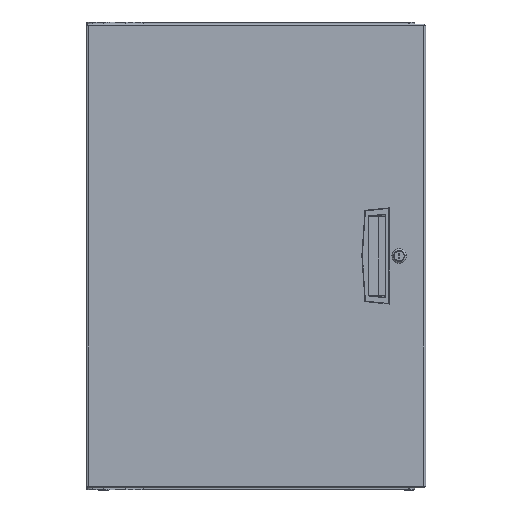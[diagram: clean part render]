
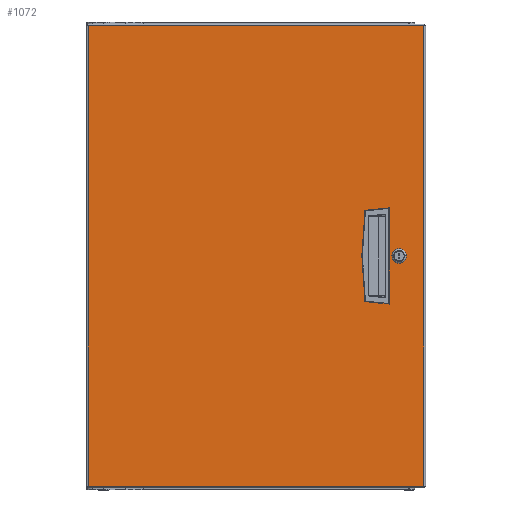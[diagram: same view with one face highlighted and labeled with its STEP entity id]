
A CAD part, top view. The second image highlights one B-rep face of the part: STEP entity #1072.
In plain terms, the highlighted planar face has unit normal (0, 0, 1).
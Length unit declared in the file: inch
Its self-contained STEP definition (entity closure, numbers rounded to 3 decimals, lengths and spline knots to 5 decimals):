
#1=DIRECTION('',(0.,-1.,0.));
#2=VECTOR('',#1,5.2);
#3=CARTESIAN_POINT('',(7.8275,2.6,0.));
#4=LINE('',#3,#2);
#5=DIRECTION('',(1.,0.,0.));
#6=VECTOR('',#5,1.21);
#7=CARTESIAN_POINT('',(6.6175,2.6,0.));
#8=LINE('',#7,#6);
#9=DIRECTION('',(0.,1.,0.));
#10=VECTOR('',#9,5.2);
#11=CARTESIAN_POINT('',(6.6175,-2.6,0.));
#12=LINE('',#11,#10);
#13=DIRECTION('',(-1.,0.,0.));
#14=VECTOR('',#13,1.21);
#15=CARTESIAN_POINT('',(7.8275,-2.6,0.));
#16=LINE('',#15,#14);
#17=CARTESIAN_POINT('',(8.5975,0.,0.));
#18=DIRECTION('',(0.,0.,1.));
#19=DIRECTION('',(0.521,-0.853,0.));
#20=AXIS2_PLACEMENT_3D('',#17,#18,#19);
#22=DIRECTION('',(1.,0.,0.));
#23=VECTOR('',#22,0.39102);
#24=CARTESIAN_POINT('',(8.40199,0.32,0.));
#25=LINE('',#24,#23);
#26=CARTESIAN_POINT('',(8.5975,0.,0.));
#27=DIRECTION('',(0.,0.,1.));
#28=DIRECTION('',(-0.521,0.853,0.));
#29=AXIS2_PLACEMENT_3D('',#26,#27,#28);
#31=DIRECTION('',(-1.,0.,0.));
#32=VECTOR('',#31,0.39102);
#33=CARTESIAN_POINT('',(8.79301,-0.32,0.));
#34=LINE('',#33,#32);
#47=DIRECTION('',(0.,-1.,0.));
#48=VECTOR('',#47,27.626);
#49=CARTESIAN_POINT('',(10.0785,13.813,0.));
#50=LINE('',#49,#48);
#153=DIRECTION('',(1.,0.,0.));
#154=VECTOR('',#153,20.157);
#155=CARTESIAN_POINT('',(-10.0785,13.813,0.));
#156=LINE('',#155,#154);
#177=DIRECTION('',(0.,1.,0.));
#178=VECTOR('',#177,27.626);
#179=CARTESIAN_POINT('',(-10.0785,-13.813,0.));
#180=LINE('',#179,#178);
#229=DIRECTION('',(-1.,0.,0.));
#230=VECTOR('',#229,20.157);
#231=CARTESIAN_POINT('',(10.0785,-13.813,0.));
#232=LINE('',#231,#230);
#837=CARTESIAN_POINT('',(-10.0785,13.813,0.));
#838=CARTESIAN_POINT('',(10.0785,13.813,0.));
#839=VERTEX_POINT('',#837);
#840=VERTEX_POINT('',#838);
#853=CARTESIAN_POINT('',(10.0785,-13.813,0.));
#854=CARTESIAN_POINT('',(-10.0785,-13.813,0.));
#855=VERTEX_POINT('',#853);
#856=VERTEX_POINT('',#854);
#925=CARTESIAN_POINT('',(7.8275,2.6,0.));
#926=CARTESIAN_POINT('',(7.8275,-2.6,0.));
#927=VERTEX_POINT('',#925);
#928=VERTEX_POINT('',#926);
#929=CARTESIAN_POINT('',(6.6175,-2.6,0.));
#930=VERTEX_POINT('',#929);
#931=CARTESIAN_POINT('',(6.6175,2.6,0.));
#932=VERTEX_POINT('',#931);
#933=CARTESIAN_POINT('',(8.79301,-0.32,0.));
#934=CARTESIAN_POINT('',(8.79301,0.32,0.));
#935=VERTEX_POINT('',#933);
#936=VERTEX_POINT('',#934);
#937=CARTESIAN_POINT('',(8.40199,-0.32,0.));
#938=VERTEX_POINT('',#937);
#939=CARTESIAN_POINT('',(8.40199,0.32,0.));
#940=VERTEX_POINT('',#939);
#1037=CARTESIAN_POINT('',(0.,0.,0.));
#1038=DIRECTION('',(0.,0.,1.));
#1039=DIRECTION('',(1.,0.,0.));
#1040=AXIS2_PLACEMENT_3D('',#1037,#1038,#1039);
#1041=PLANE('',#1040);
#1043=ORIENTED_EDGE('',*,*,#1042,.T.);
#1045=ORIENTED_EDGE('',*,*,#1044,.T.);
#1047=ORIENTED_EDGE('',*,*,#1046,.T.);
#1049=ORIENTED_EDGE('',*,*,#1048,.T.);
#1050=EDGE_LOOP('',(#1043,#1045,#1047,#1049));
#1051=FACE_OUTER_BOUND('',#1050,.F.);
#1053=ORIENTED_EDGE('',*,*,#1052,.F.);
#1055=ORIENTED_EDGE('',*,*,#1054,.F.);
#1057=ORIENTED_EDGE('',*,*,#1056,.F.);
#1059=ORIENTED_EDGE('',*,*,#1058,.F.);
#1060=EDGE_LOOP('',(#1053,#1055,#1057,#1059));
#1061=FACE_BOUND('',#1060,.F.);
#1063=ORIENTED_EDGE('',*,*,#1062,.T.);
#1065=ORIENTED_EDGE('',*,*,#1064,.F.);
#1067=ORIENTED_EDGE('',*,*,#1066,.T.);
#1069=ORIENTED_EDGE('',*,*,#1068,.F.);
#1070=EDGE_LOOP('',(#1063,#1065,#1067,#1069));
#1071=FACE_BOUND('',#1070,.F.);
#1072=ADVANCED_FACE('',(#1051,#1061,#1071),#1041,.T.);
#21=CIRCLE('',#20,0.375);
#30=CIRCLE('',#29,0.375);
#1042=EDGE_CURVE('',#840,#855,#50,.T.);
#1044=EDGE_CURVE('',#855,#856,#232,.T.);
#1046=EDGE_CURVE('',#856,#839,#180,.T.);
#1048=EDGE_CURVE('',#839,#840,#156,.T.);
#1052=EDGE_CURVE('',#927,#928,#4,.T.);
#1054=EDGE_CURVE('',#932,#927,#8,.T.);
#1056=EDGE_CURVE('',#930,#932,#12,.T.);
#1058=EDGE_CURVE('',#928,#930,#16,.T.);
#1062=EDGE_CURVE('',#935,#936,#21,.T.);
#1064=EDGE_CURVE('',#940,#936,#25,.T.);
#1066=EDGE_CURVE('',#940,#938,#30,.T.);
#1068=EDGE_CURVE('',#935,#938,#34,.T.);
